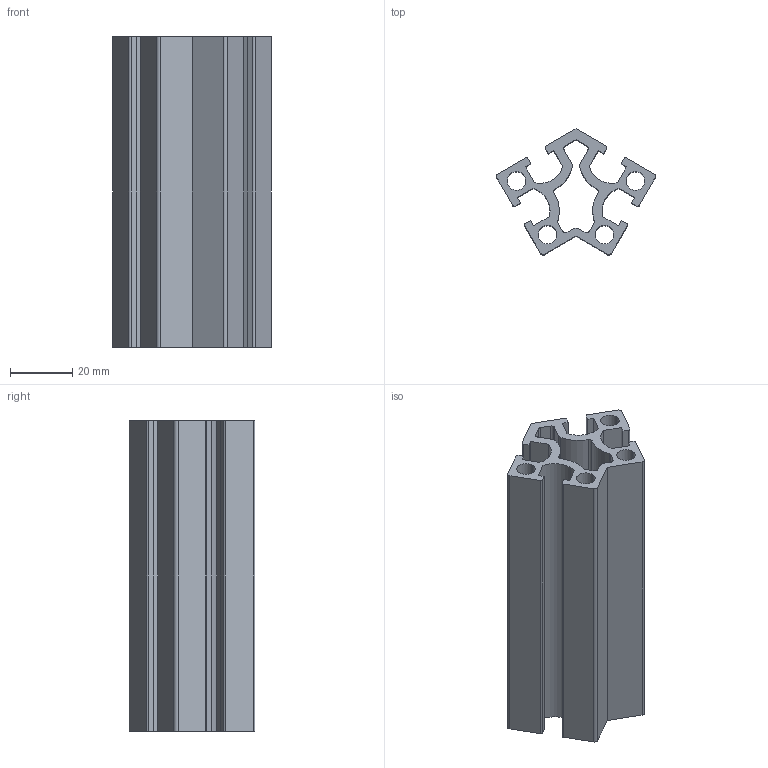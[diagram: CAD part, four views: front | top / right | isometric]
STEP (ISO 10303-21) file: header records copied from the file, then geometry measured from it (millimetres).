
FILE_DESCRIPTION (( 'STEP AP203' ), '1' );
FILE_NAME ('WS3030-120-6.STEP', '2024-02-17T06:48:58', ( '' ), ( '' ), 'SwSTEP 2.0', 'SolidWorks 2022', '' );
FILE_SCHEMA (( 'CONFIG_CONTROL_DESIGN' ));
Length unit declared in the file: millimetre
Products named in the file (1): WS3030-120-6
Bounding box: 51.23 x 40.61 x 100 mm (x, y, z)
Volume: 54987.7 mm3; surface area: 41260 mm2
Topology: 1 solids, 1 shells, 93 faces, 273 edges, 182 vertices
Faces by surface type: cylinder 49, plane 44
Entity records: 3222 total; most frequent: DIRECTION 559, CARTESIAN_POINT 549, ORIENTED_EDGE 546, EDGE_CURVE 273, AXIS2_PLACEMENT_3D 192, VERTEX_POINT 182, VECTOR 175, LINE 175
